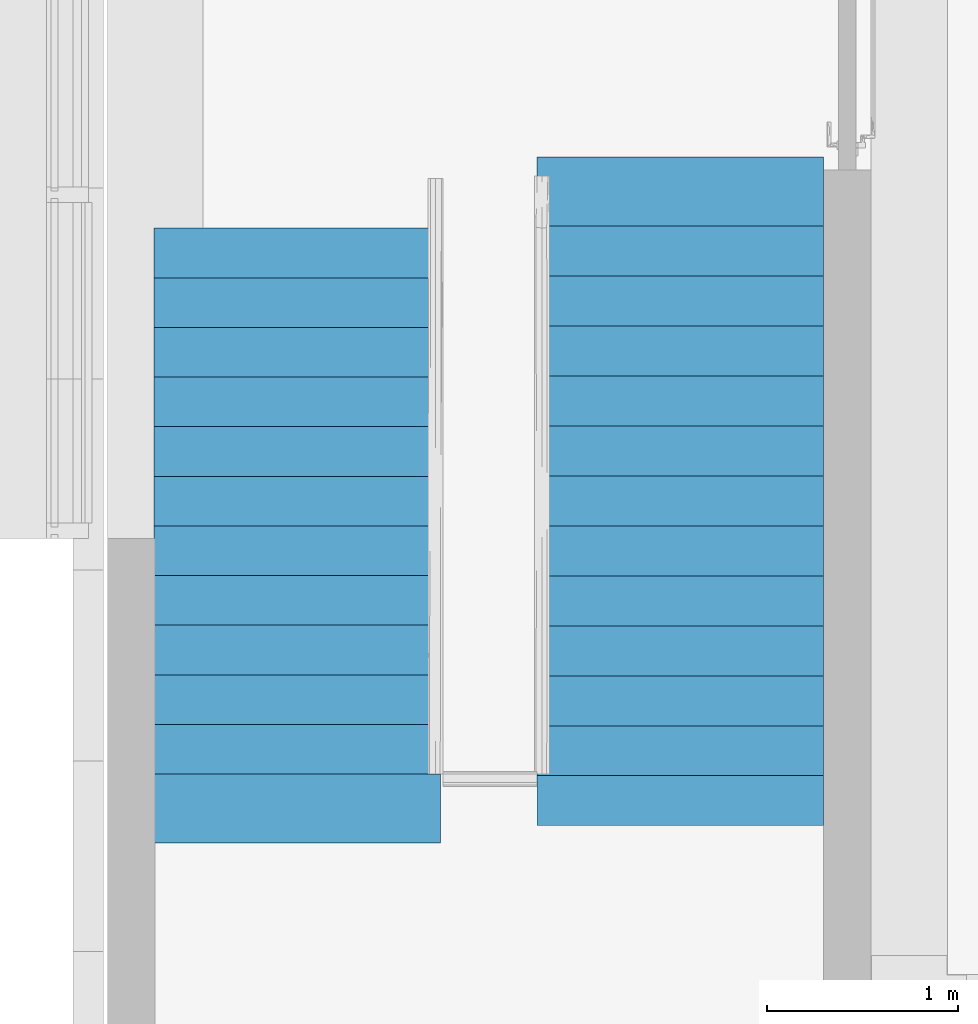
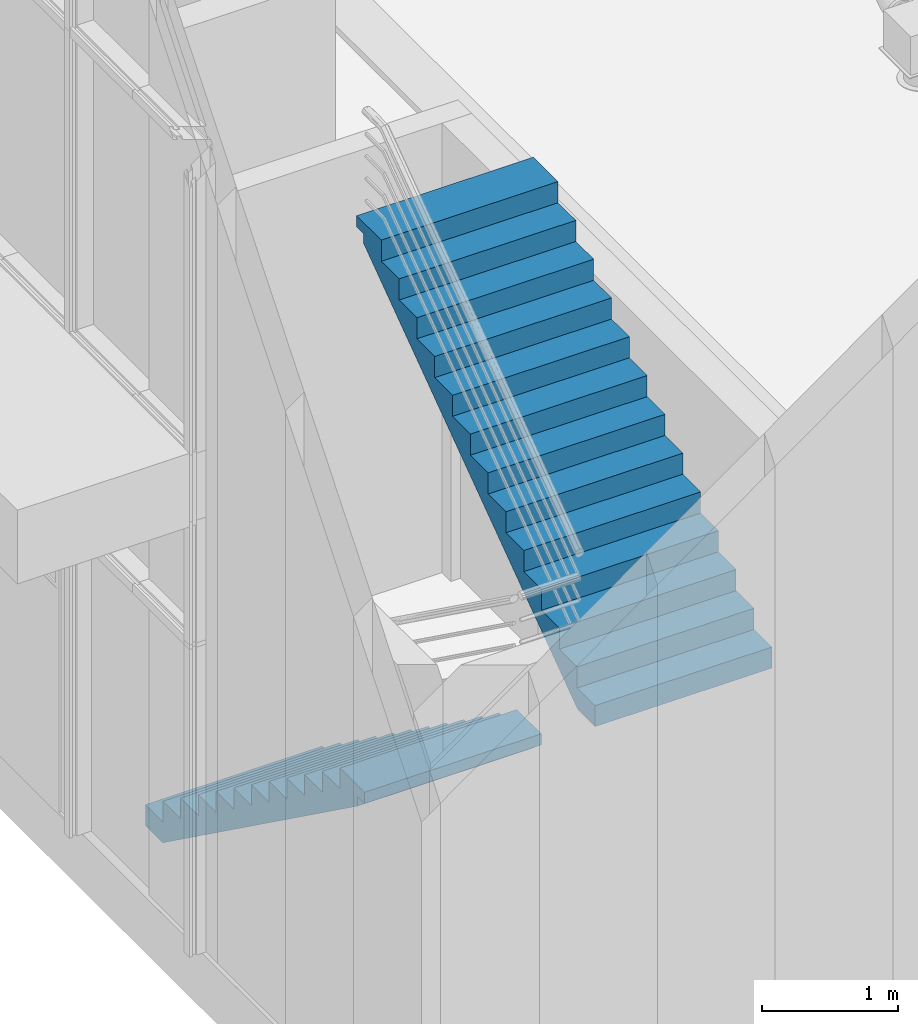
# One storey, part 213 of 302: 2 stair flights, 2 elements without a shape of their own.
"""IFC2X3 building model written with IfcOpenShell, lengths in metres."""

from ifc_helpers import new_model, entity, si_unit, converted_unit, derived_unit, direction, frame, origin, place, context, subcontext, project, spatial, faceted_brep, material, type_object, element, aggregate, save


model = new_model("IFC2X3")

# Units and contexts
model_context = context("Model", 3, precision=1e-05, world=origin(), true_north=direction((6.12303176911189e-17, 1.0)))
body_context = subcontext(model_context, "Body", "Model", "MODEL_VIEW")
ifc_project = project(units=[si_unit("LENGTHUNIT", "METRE"), si_unit("AREAUNIT", "SQUARE_METRE"), si_unit("VOLUMEUNIT", "CUBIC_METRE"), converted_unit("PLANEANGLEUNIT", "DEGREE", entity("IfcRatioMeasure", 0.0174532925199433), si_unit("PLANEANGLEUNIT", "RADIAN"), dimensions=[0, 0, 0, 0, 0, 0, 0]), si_unit("MASSUNIT", "GRAM", prefix="KILO"), derived_unit("MASSDENSITYUNIT", [(si_unit("MASSUNIT", "GRAM", prefix="KILO"), 1), (si_unit("LENGTHUNIT", "METRE"), -3)]), derived_unit("MOMENTOFINERTIAUNIT", [(si_unit("LENGTHUNIT", "METRE"), 4)]), si_unit("TIMEUNIT", "SECOND"), si_unit("FREQUENCYUNIT", "HERTZ"), si_unit("THERMODYNAMICTEMPERATUREUNIT", "DEGREE_CELSIUS"), derived_unit("THERMALTRANSMITTANCEUNIT", [(si_unit("MASSUNIT", "GRAM", prefix="KILO"), 1), (si_unit("THERMODYNAMICTEMPERATUREUNIT", "KELVIN"), -1), (si_unit("TIMEUNIT", "SECOND"), -3)]), derived_unit("VOLUMETRICFLOWRATEUNIT", [(si_unit("LENGTHUNIT", "METRE"), 3), (si_unit("TIMEUNIT", "SECOND"), -1)]), si_unit("ELECTRICCURRENTUNIT", "AMPERE"), si_unit("ELECTRICVOLTAGEUNIT", "VOLT"), si_unit("POWERUNIT", "WATT"), si_unit("FORCEUNIT", "NEWTON", prefix="KILO"), si_unit("ILLUMINANCEUNIT", "LUX"), si_unit("LUMINOUSFLUXUNIT", "LUMEN"), si_unit("LUMINOUSINTENSITYUNIT", "CANDELA"), derived_unit("USERDEFINED", [(si_unit("MASSUNIT", "GRAM", prefix="KILO"), -1), (si_unit("LENGTHUNIT", "METRE"), -2), (si_unit("TIMEUNIT", "SECOND"), 3), (si_unit("LUMINOUSFLUXUNIT", "LUMEN"), 1)]), derived_unit("LINEARVELOCITYUNIT", [(si_unit("LENGTHUNIT", "METRE"), 1), (si_unit("TIMEUNIT", "SECOND"), -1)]), si_unit("PRESSUREUNIT", "PASCAL"), derived_unit("USERDEFINED", [(si_unit("LENGTHUNIT", "METRE"), -2), (si_unit("MASSUNIT", "GRAM", prefix="KILO"), 1), (si_unit("TIMEUNIT", "SECOND"), -2)]), derived_unit("LINEARFORCEUNIT", [(si_unit("MASSUNIT", "GRAM", prefix="KILO"), 1), (si_unit("LENGTHUNIT", "METRE"), 1), (si_unit("TIMEUNIT", "SECOND"), -2), (si_unit("LENGTHUNIT", "METRE"), -1)]), derived_unit("PLANARFORCEUNIT", [(si_unit("MASSUNIT", "GRAM", prefix="KILO"), 1), (si_unit("LENGTHUNIT", "METRE"), 1), (si_unit("TIMEUNIT", "SECOND"), -2), (si_unit("LENGTHUNIT", "METRE"), -2)])], contexts=[model_context])

# Site, building, storey
site_placement = place(None, origin())
site = spatial("IfcSite", under=ifc_project, at=site_placement, Name="Default", CompositionType="ELEMENT")
building_placement = place(site_placement, origin())
building = spatial("IfcBuilding", under=site, at=building_placement, CompositionType="ELEMENT")
storey_placement = place(building_placement, frame((0.0, 0.0, -1.3)))
storey = spatial("IfcBuildingStorey", under=building, at=storey_placement, Name="00_EG", CompositionType="ELEMENT", Elevation=-1.3)

# Stair, stair flight
stair_1_placement = place(storey_placement, origin())
stair_1 = element("IfcStair", 1, at=stair_1_placement, inside=storey, Name="Fertigbetontreppe:Treppe", ObjectType="Fertigbetontreppe:Precast Stair", ShapeType="STRAIGHT_RUN_STAIR")
ifc_material = material(Name="<Unnamed>")
stair_flight_type_1 = type_object("IfcStairFlightType", Name="Massivtreppenlauf:Monolithic Run", PredefinedType="STRAIGHT")
stair_flight_1_placement = place(stair_1_placement, frame((-266.41715240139, 16.3880889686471, 0.0)))
stair_flight_1 = element("IfcStairFlight", 2, at=stair_flight_1_placement, type_object=stair_flight_type_1, material=ifc_material, Name="Fertigbetontreppe:Treppe:2872663 Run 1", ObjectType="Massivtreppenlauf:Monolithic Run", NumberOfRiser=12, NumberOfTreads=13, RiserHeight=0.615157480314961, TreadLength=0.853018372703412, context=body_context, shape_type="Brep", body=[
    faceted_brep([(1.50000000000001, 2.96, 1.4575), (1.50000000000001, 3.22, 1.4575), (0.0, 3.22, 1.4575), (0.0, 2.96, 1.4575), (1.50000000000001, 2.96000000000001, 1.27256375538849), (1.50000000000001, 2.96355507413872, 1.27), (1.50000000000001, 3.22, 1.27), (0.0, 3.22, 1.27), (0.0, 2.96355507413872, 1.26999999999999), (0.0, 2.96, 1.2725637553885), (1.50000000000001, 2.7, 1.645), (1.50000000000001, 2.96, 1.645), (0.0, 2.96, 1.645), (0.0, 2.7, 1.645), (1.50000000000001, 2.70000000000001, 1.46006375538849), (0.0, 2.7, 1.4600637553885), (1.50000000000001, 2.44, 1.8325), (1.50000000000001, 2.7, 1.8325), (0.0, 2.7, 1.8325), (0.0, 2.44, 1.8325), (1.50000000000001, 2.44000000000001, 1.64756375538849), (0.0, 2.44, 1.6475637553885), (1.50000000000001, 2.18, 2.02), (1.50000000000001, 2.44, 2.02), (0.0, 2.44, 2.02), (0.0, 2.18, 2.02), (1.50000000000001, 2.18000000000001, 1.83506375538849), (0.0, 2.18, 1.8350637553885), (1.50000000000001, 1.92, 2.2075), (1.50000000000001, 2.18, 2.2075), (0.0, 2.18, 2.2075), (0.0, 1.92, 2.2075), (1.50000000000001, 1.92000000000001, 2.02256375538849), (0.0, 1.92, 2.0225637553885), (1.50000000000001, 1.66, 2.395), (1.50000000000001, 1.92, 2.395), (0.0, 1.92, 2.395), (0.0, 1.66, 2.395), (1.50000000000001, 1.66, 2.21006375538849), (0.0, 1.66, 2.2100637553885), (1.50000000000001, 1.4, 2.5825), (1.50000000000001, 1.66, 2.5825), (0.0, 1.66, 2.5825), (0.0, 1.4, 2.5825), (1.50000000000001, 1.4, 2.39756375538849), (0.0, 1.4, 2.3975637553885), (1.50000000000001, 1.14, 2.77), (1.50000000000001, 1.4, 2.77), (0.0, 1.4, 2.77), (0.0, 1.14, 2.77), (1.50000000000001, 1.14000000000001, 2.58506375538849), (0.0, 1.14, 2.5850637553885), (1.50000000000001, 0.879999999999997, 2.9575), (1.50000000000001, 1.14, 2.9575), (0.0, 1.14, 2.9575), (0.0, 0.879999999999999, 2.9575), (1.50000000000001, 0.880000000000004, 2.77256375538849), (0.0, 0.879999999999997, 2.7725637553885), (1.50000000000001, 0.620000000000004, 2.96006375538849), (1.50000000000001, 0.360000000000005, 3.14756375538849), (1.50000000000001, 0.0999999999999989, 3.3350637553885), (0.0, 0.100000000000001, 3.33506375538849), (0.0, 0.36, 3.14756375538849), (0.0, 0.620000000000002, 2.96006375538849), (0.0, 0.0, 3.42), (0.0, 0.0999999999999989, 3.42), (1.50000000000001, 0.0999999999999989, 3.42), (1.50000000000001, 0.0, 3.42), (1.50000000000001, 0.0, 3.52), (0.0, 0.0, 3.52), (1.50000000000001, 0.619999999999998, 3.145), (1.50000000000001, 0.879999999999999, 3.145), (0.0, 0.879999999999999, 3.145), (0.0, 0.62, 3.145), (1.50000000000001, 0.359999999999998, 3.3325), (1.50000000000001, 0.62, 3.3325), (0.0, 0.62, 3.3325), (0.0, 0.359999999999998, 3.3325), (1.50000000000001, 0.359999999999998, 3.52), (0.0, 0.359999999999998, 3.52)], [[[0, 1, 2, 3]], [[1, 0, 4, 5, 6]], [[2, 1, 6, 7]], [[3, 2, 7, 8, 9]], [[10, 11, 12, 13]], [[11, 10, 14, 4, 0]], [[0, 3, 12, 11]], [[13, 12, 3, 9, 15]], [[16, 17, 18, 19]], [[17, 16, 20, 14, 10]], [[10, 13, 18, 17]], [[19, 18, 13, 15, 21]], [[22, 23, 24, 25]], [[23, 22, 26, 20, 16]], [[16, 19, 24, 23]], [[25, 24, 19, 21, 27]], [[28, 29, 30, 31]], [[29, 28, 32, 26, 22]], [[22, 25, 30, 29]], [[31, 30, 25, 27, 33]], [[34, 35, 36, 37]], [[35, 34, 38, 32, 28]], [[28, 31, 36, 35]], [[37, 36, 31, 33, 39]], [[40, 41, 42, 43]], [[41, 40, 44, 38, 34]], [[34, 37, 42, 41]], [[43, 42, 37, 39, 45]], [[46, 47, 48, 49]], [[47, 46, 50, 44, 40]], [[40, 43, 48, 47]], [[49, 48, 43, 45, 51]], [[52, 53, 54, 55]], [[53, 52, 56, 50, 46]], [[46, 49, 54, 53]], [[55, 54, 49, 51, 57]], [[7, 6, 5, 8]], [[8, 5, 4, 14, 20, 26, 32, 38, 44, 50, 56, 58, 59, 60, 61, 62, 63, 57, 51, 45, 39, 33, 27, 21, 15, 9]], [[64, 65, 66, 67]], [[64, 67, 68, 69]], [[70, 71, 72, 73]], [[71, 70, 58, 56, 52]], [[52, 55, 72, 71]], [[73, 72, 55, 57, 63]], [[74, 75, 76, 77]], [[75, 74, 59, 58, 70]], [[70, 73, 76, 75]], [[77, 76, 73, 63, 62]], [[78, 79, 69, 68]], [[78, 68, 67, 66, 60, 59, 74]], [[74, 77, 79, 78]], [[69, 79, 77, 62, 61, 65, 64]], [[61, 60, 66, 65]]]),
])
aggregate(stair_1, [stair_flight_1])

stair_2_placement = place(storey_placement, origin())
stair_2 = element("IfcStair", 3, at=stair_2_placement, inside=storey, Name="Fertigbetontreppe:Treppe", ObjectType="Fertigbetontreppe:Precast Stair", ShapeType="STRAIGHT_RUN_STAIR")
stair_flight_type_2 = type_object("IfcStairFlightType", Name="Massivtreppenlauf:Monolithic Run", PredefinedType="STRAIGHT")
stair_flight_2_placement = place(stair_2_placement, frame((-264.410111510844, 16.4779351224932, 0.0)))
stair_flight_2 = element("IfcStairFlight", 4, at=stair_flight_2_placement, type_object=stair_flight_type_2, material=ifc_material, Name="Fertigbetontreppe:Treppe:2873186 Run 1", ObjectType="Massivtreppenlauf:Monolithic Run", NumberOfRiser=13, NumberOfTreads=14, RiserHeight=0.620583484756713, TreadLength=0.858570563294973, context=body_context, shape_type="Brep", body=[
    faceted_brep([(0.0, 0.261692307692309, 3.54015384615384), (0.0, 0.0, 3.54015384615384), (1.50000000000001, 0.0, 3.54015384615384), (1.50000000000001, 0.261692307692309, 3.54015384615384), (0.0, 0.261692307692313, 3.35507217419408), (0.0, 0.256058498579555, 3.351), (0.0, 0.0, 3.351), (1.50000000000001, 0.0, 3.351), (1.50000000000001, 0.256058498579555, 3.351), (1.50000000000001, 0.261692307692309, 3.35507217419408), (0.0, 0.523384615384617, 3.72930769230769), (0.0, 0.261692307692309, 3.72930769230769), (1.50000000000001, 0.261692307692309, 3.72930769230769), (1.50000000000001, 0.523384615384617, 3.72930769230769), (0.0, 0.523384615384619, 3.54422602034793), (1.50000000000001, 0.523384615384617, 3.54422602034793), (0.0, 0.785076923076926, 3.91846153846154), (0.0, 0.523384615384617, 3.91846153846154), (1.50000000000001, 0.523384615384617, 3.91846153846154), (1.50000000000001, 0.785076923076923, 3.91846153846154), (0.0, 0.785076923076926, 3.73337986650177), (1.50000000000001, 0.785076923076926, 3.73337986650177), (0.0, 1.04676923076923, 4.10761538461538), (0.0, 0.785076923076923, 4.10761538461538), (1.50000000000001, 0.785076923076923, 4.10761538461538), (1.50000000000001, 1.04676923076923, 4.10761538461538), (0.0, 1.04676923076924, 3.92253371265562), (1.50000000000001, 1.04676923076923, 3.92253371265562), (0.0, 1.30846153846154, 4.29676923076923), (0.0, 1.04676923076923, 4.29676923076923), (1.50000000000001, 1.04676923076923, 4.29676923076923), (1.50000000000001, 1.30846153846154, 4.29676923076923), (0.0, 1.30846153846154, 4.11168755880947), (1.50000000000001, 1.30846153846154, 4.11168755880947), (0.0, 1.57015384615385, 4.48592307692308), (0.0, 1.30846153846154, 4.48592307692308), (1.50000000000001, 1.30846153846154, 4.48592307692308), (1.50000000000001, 1.57015384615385, 4.48592307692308), (0.0, 1.57015384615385, 4.30084140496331), (1.50000000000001, 1.57015384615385, 4.30084140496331), (0.0, 1.83184615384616, 4.67507692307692), (0.0, 1.57015384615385, 4.67507692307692), (1.50000000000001, 1.57015384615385, 4.67507692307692), (1.50000000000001, 1.83184615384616, 4.67507692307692), (0.0, 1.83184615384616, 4.48999525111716), (1.50000000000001, 1.83184615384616, 4.48999525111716), (0.0, 2.09353846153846, 4.86423076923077), (0.0, 1.83184615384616, 4.86423076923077), (1.50000000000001, 1.83184615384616, 4.86423076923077), (1.50000000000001, 2.09353846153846, 4.86423076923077), (0.0, 2.09353846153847, 4.67914909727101), (1.50000000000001, 2.09353846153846, 4.679149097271), (0.0, 2.35523076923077, 5.05338461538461), (0.0, 2.09353846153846, 5.05338461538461), (1.50000000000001, 2.09353846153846, 5.05338461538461), (1.50000000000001, 2.35523076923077, 5.05338461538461), (0.0, 2.35523076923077, 4.86830294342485), (1.50000000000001, 2.35523076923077, 4.86830294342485), (0.0, 2.61692307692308, 5.0574567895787), (0.0, 2.87861538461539, 5.24661063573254), (0.0, 3.1403076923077, 5.43576448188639), (0.0, 3.402, 5.62491832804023), (1.50000000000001, 3.40200000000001, 5.62491832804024), (1.50000000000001, 3.1403076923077, 5.43576448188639), (1.50000000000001, 2.87861538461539, 5.24661063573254), (1.50000000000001, 2.61692307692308, 5.0574567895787), (1.50000000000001, 3.502, 5.71), (1.50000000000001, 3.402, 5.71), (0.0, 3.402, 5.71), (0.0, 3.502, 5.71), (0.0, 3.502, 5.81), (1.50000000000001, 3.502, 5.81), (0.0, 2.61692307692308, 5.24253846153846), (0.0, 2.35523076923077, 5.24253846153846), (1.50000000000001, 2.35523076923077, 5.24253846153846), (1.50000000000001, 2.61692307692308, 5.24253846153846), (0.0, 2.87861538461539, 5.43169230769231), (0.0, 2.61692307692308, 5.43169230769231), (1.50000000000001, 2.61692307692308, 5.43169230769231), (1.50000000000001, 2.87861538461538, 5.43169230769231), (0.0, 3.14030769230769, 5.62084615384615), (0.0, 2.87861538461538, 5.62084615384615), (1.50000000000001, 2.87861538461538, 5.62084615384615), (1.50000000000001, 3.14030769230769, 5.62084615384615), (0.0, 3.14030769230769, 5.81), (1.50000000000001, 3.14030769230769, 5.81)], [[[0, 1, 2, 3]], [[1, 0, 4, 5, 6]], [[2, 1, 6, 7]], [[3, 2, 7, 8, 9]], [[10, 11, 12, 13]], [[11, 10, 14, 4, 0]], [[0, 3, 12, 11]], [[13, 12, 3, 9, 15]], [[16, 17, 18, 19]], [[17, 16, 20, 14, 10]], [[10, 13, 18, 17]], [[19, 18, 13, 15, 21]], [[22, 23, 24, 25]], [[23, 22, 26, 20, 16]], [[16, 19, 24, 23]], [[25, 24, 19, 21, 27]], [[28, 29, 30, 31]], [[29, 28, 32, 26, 22]], [[22, 25, 30, 29]], [[31, 30, 25, 27, 33]], [[34, 35, 36, 37]], [[35, 34, 38, 32, 28]], [[28, 31, 36, 35]], [[37, 36, 31, 33, 39]], [[40, 41, 42, 43]], [[41, 40, 44, 38, 34]], [[34, 37, 42, 41]], [[43, 42, 37, 39, 45]], [[46, 47, 48, 49]], [[47, 46, 50, 44, 40]], [[40, 43, 48, 47]], [[49, 48, 43, 45, 51]], [[52, 53, 54, 55]], [[53, 52, 56, 50, 46]], [[46, 49, 54, 53]], [[55, 54, 49, 51, 57]], [[7, 6, 5, 8]], [[8, 5, 4, 14, 20, 26, 32, 38, 44, 50, 56, 58, 59, 60, 61, 62, 63, 64, 65, 57, 51, 45, 39, 33, 27, 21, 15, 9]], [[66, 67, 68, 69]], [[66, 69, 70, 71]], [[72, 73, 74, 75]], [[73, 72, 58, 56, 52]], [[52, 55, 74, 73]], [[75, 74, 55, 57, 65]], [[76, 77, 78, 79]], [[77, 76, 59, 58, 72]], [[72, 75, 78, 77]], [[79, 78, 75, 65, 64]], [[80, 81, 82, 83]], [[81, 80, 60, 59, 76]], [[76, 79, 82, 81]], [[83, 82, 79, 64, 63]], [[84, 85, 71, 70]], [[84, 70, 69, 68, 61, 60, 80]], [[80, 83, 85, 84]], [[71, 85, 83, 63, 62, 67, 66]], [[62, 61, 68, 67]]]),
])
aggregate(stair_2, [stair_flight_2])

save(model, "model.ifc")
